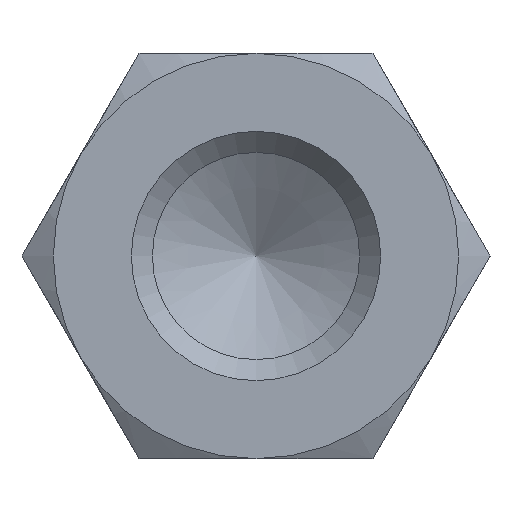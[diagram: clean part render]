
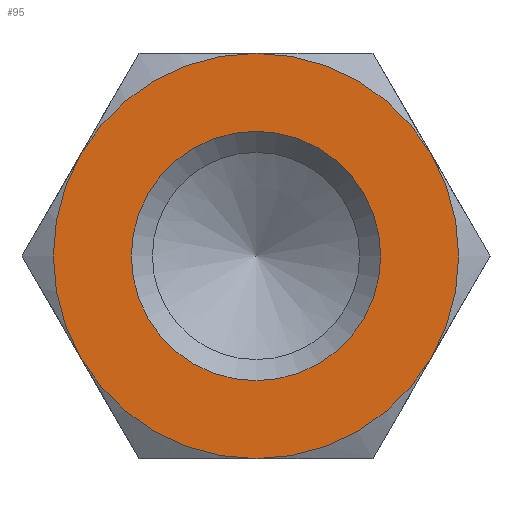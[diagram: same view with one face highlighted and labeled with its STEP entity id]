
A CAD part, left-side view. The second image highlights one B-rep face of the part: STEP entity #95.
In plain terms, the highlighted planar face has unit normal (-1, 0, 0).
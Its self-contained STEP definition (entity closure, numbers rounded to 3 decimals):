
#95 = ADVANCED_FACE( '', ( #147, #148 ), #149, .F. );
#147 = FACE_OUTER_BOUND( '', #206, .T. );
#148 = FACE_BOUND( '', #207, .T. );
#149 = PLANE( '', #208 );
#206 = EDGE_LOOP( '', ( #356, #357, #358, #359, #360, #361 ) );
#207 = EDGE_LOOP( '', ( #362 ) );
#208 = AXIS2_PLACEMENT_3D( '', #363, #364, #365 );
#356 = ORIENTED_EDGE( '', *, *, #440, .F. );
#357 = ORIENTED_EDGE( '', *, *, #425, .F. );
#358 = ORIENTED_EDGE( '', *, *, #441, .F. );
#359 = ORIENTED_EDGE( '', *, *, #437, .F. );
#360 = ORIENTED_EDGE( '', *, *, #442, .F. );
#361 = ORIENTED_EDGE( '', *, *, #443, .F. );
#362 = ORIENTED_EDGE( '', *, *, #439, .T. );
#363 = CARTESIAN_POINT( '', ( -80., 0., 0. ) );
#364 = DIRECTION( '', ( 1., 0., 0. ) );
#365 = DIRECTION( '', ( 0., 0., -1. ) );
#425 = EDGE_CURVE( '', #495, #493, #497, .T. );
#437 = EDGE_CURVE( '', #447, #506, #513, .T. );
#439 = EDGE_CURVE( '', #516, #516, #517, .T. );
#440 = EDGE_CURVE( '', #493, #486, #518, .T. );
#441 = EDGE_CURVE( '', #506, #495, #519, .T. );
#442 = EDGE_CURVE( '', #481, #447, #520, .T. );
#443 = EDGE_CURVE( '', #486, #481, #521, .T. );
#447 = VERTEX_POINT( '', #525 );
#481 = VERTEX_POINT( '', #607 );
#486 = VERTEX_POINT( '', #623 );
#493 = VERTEX_POINT( '', #650 );
#495 = VERTEX_POINT( '', #657 );
#497 = CIRCLE( '', #664, 6.5 );
#506 = VERTEX_POINT( '', #690 );
#513 = CIRCLE( '', #733, 6.5 );
#516 = VERTEX_POINT( '', #736 );
#517 = CIRCLE( '', #737, 4. );
#518 = CIRCLE( '', #738, 6.5 );
#519 = CIRCLE( '', #739, 6.5 );
#520 = CIRCLE( '', #740, 6.5 );
#521 = CIRCLE( '', #741, 6.5 );
#525 = CARTESIAN_POINT( '', ( -80., -5.629, 3.25 ) );
#607 = CARTESIAN_POINT( '', ( -80., 0., 6.5 ) );
#623 = CARTESIAN_POINT( '', ( -80., 5.629, 3.25 ) );
#650 = CARTESIAN_POINT( '', ( -80., 5.629, -3.25 ) );
#657 = CARTESIAN_POINT( '', ( -80., 0., -6.5 ) );
#664 = AXIS2_PLACEMENT_3D( '', #776, #777, #778 );
#690 = CARTESIAN_POINT( '', ( -80., -5.629, -3.25 ) );
#733 = AXIS2_PLACEMENT_3D( '', #781, #782, #783 );
#736 = CARTESIAN_POINT( '', ( -80., 0., -4. ) );
#737 = AXIS2_PLACEMENT_3D( '', #787, #788, #789 );
#738 = AXIS2_PLACEMENT_3D( '', #790, #791, #792 );
#739 = AXIS2_PLACEMENT_3D( '', #793, #794, #795 );
#740 = AXIS2_PLACEMENT_3D( '', #796, #797, #798 );
#741 = AXIS2_PLACEMENT_3D( '', #799, #800, #801 );
#776 = CARTESIAN_POINT( '', ( -80., 0., 0. ) );
#777 = DIRECTION( '', ( 1., 0., 0. ) );
#778 = DIRECTION( '', ( 0., 0., -1. ) );
#781 = CARTESIAN_POINT( '', ( -80., 0., 0. ) );
#782 = DIRECTION( '', ( 1., 0., 0. ) );
#783 = DIRECTION( '', ( 0., 0., -1. ) );
#787 = CARTESIAN_POINT( '', ( -80., 0., 0. ) );
#788 = DIRECTION( '', ( 1., 0., 0. ) );
#789 = DIRECTION( '', ( 0., 0., -1. ) );
#790 = CARTESIAN_POINT( '', ( -80., 0., 0. ) );
#791 = DIRECTION( '', ( 1., 0., 0. ) );
#792 = DIRECTION( '', ( 0., 0., -1. ) );
#793 = CARTESIAN_POINT( '', ( -80., 0., 0. ) );
#794 = DIRECTION( '', ( 1., 0., 0. ) );
#795 = DIRECTION( '', ( 0., 0., -1. ) );
#796 = CARTESIAN_POINT( '', ( -80., 0., 0. ) );
#797 = DIRECTION( '', ( 1., 0., 0. ) );
#798 = DIRECTION( '', ( 0., 0., -1. ) );
#799 = CARTESIAN_POINT( '', ( -80., 0., 0. ) );
#800 = DIRECTION( '', ( 1., 0., 0. ) );
#801 = DIRECTION( '', ( 0., 0., -1. ) );
